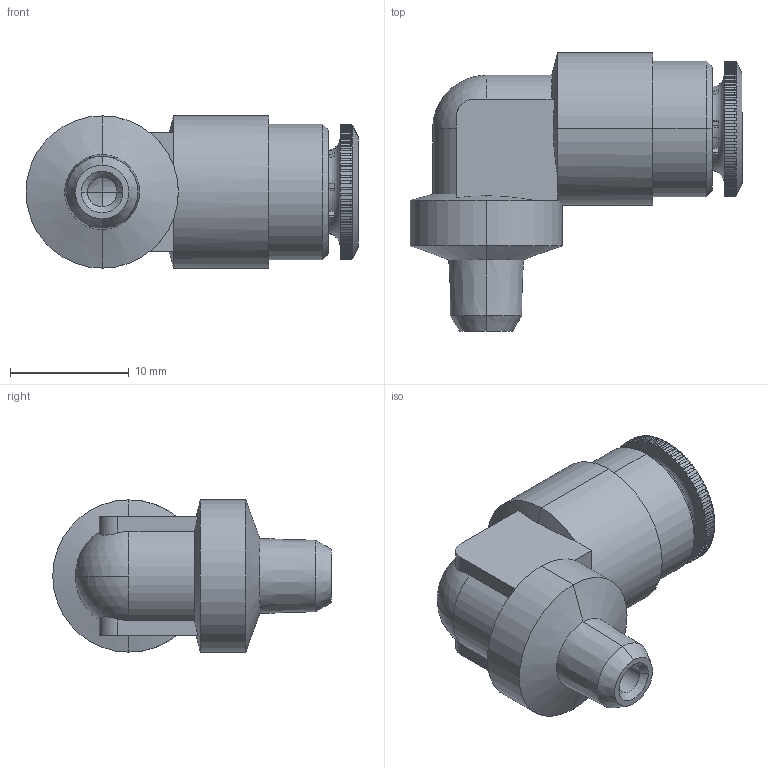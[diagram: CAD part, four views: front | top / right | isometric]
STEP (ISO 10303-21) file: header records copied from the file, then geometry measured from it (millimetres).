
FILE_DESCRIPTION (( 'STEP AP214' ), '1' );
FILE_NAME ('5810000012A.step', '2020-02-21T08:27:02', ( 'AIGNEP' ), ( 'Hewlett-Packard Company' ), 'SwSTEP 2.0', 'SolidWorks 2016', '' );
FILE_SCHEMA (( 'AUTOMOTIVE_DESIGN' ));
Length unit declared in the file: millimetre
Products named in the file (1): 5810000012A
Bounding box: 27.9 x 23.4 x 12.8 mm (x, y, z)
Volume: 2657.9 mm3; surface area: 2204.1 mm2
Topology: 1 solids, 1 shells, 435 faces, 1308 edges, 862 vertices
Faces by surface type: plane 259, cylinder 117, cone 51, torus 6, sphere 2
Entity records: 19903 total; most frequent: CARTESIAN_POINT 3611, ORIENTED_EDGE 2612, DIRECTION 2200, EDGE_CURVE 1306, VERTEX_POINT 862, AXIS2_PLACEMENT_3D 759, LINE 682, VECTOR 682
